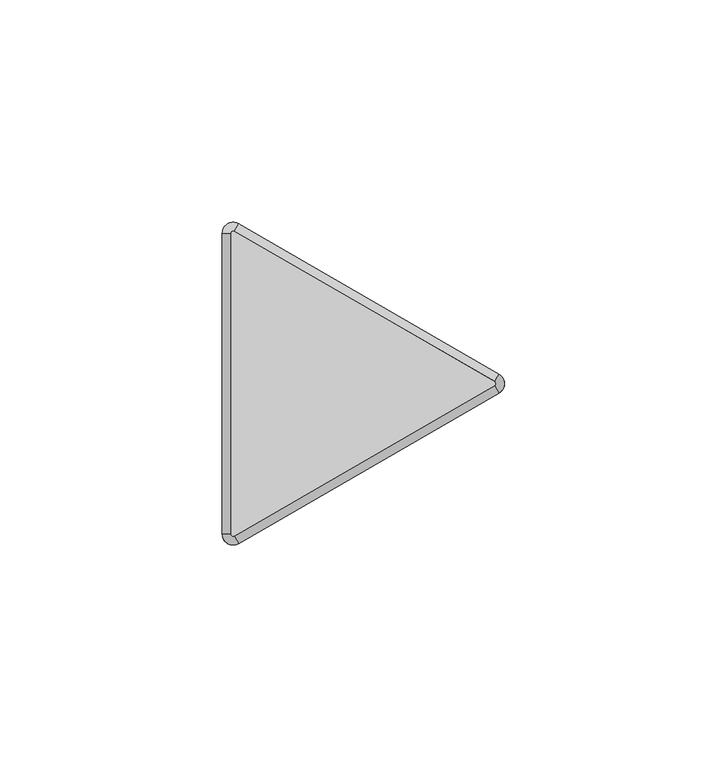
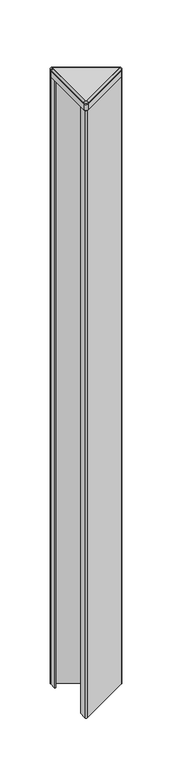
"""IFC4 building model written with IfcOpenShell, lengths in millimetres: furniture geometry, Steelcase - Answer Solution - Panel - 120deg Change-of-Height Trim - Thin : Y Corner - 30H for 66H App."""

import ifcopenshell
import ifcopenshell.guid

model = None  # the IFC model being written
_history = None  # IfcOwnerHistory: only IFC2X3 demands one
_inside = {}  # id of a spatial element -> (the spatial element, [elements in it])
_under = {}  # id of a project, library or spatial element -> (it, [spatial elements below it])
_declared = {}  # id of a project -> (the project, [libraries it declares])
_typed = {}  # id of a type object -> (the type object, [elements of that type])
_made_of = {}  # id of a material, layer set ... -> (it, [elements and type objects made of it])


def new_model(schema):
    """Start an empty IFC model of exactly this schema.

    Asked for "IFC4X3", IfcOpenShell would pick the latest addendum, in which some entities
    have other attributes; the version numbers below select the first issue.
    IFC2X3 requires an IfcOwnerHistory on every rooted entity: one is made here for all.
    """
    global model, _history
    if schema == "IFC4X3":
        model = ifcopenshell.file(schema_version=(4, 3, 0, 0))
    else:
        model = ifcopenshell.file(schema=schema)
    _inside.clear()
    _under.clear()
    _declared.clear()
    _typed.clear()
    _made_of.clear()
    _history = None
    if model.schema == "IFC2X3":
        org = make("IfcOrganization", Name="unknown")
        user = make(
            "IfcPersonAndOrganization",
            ThePerson=make("IfcPerson", FamilyName="unknown"),
            TheOrganization=org,
        )
        app = make(
            "IfcApplication",
            ApplicationDeveloper=org,
            Version="unknown",
            ApplicationFullName="unknown",
            ApplicationIdentifier="unknown",
        )
        _history = make(
            "IfcOwnerHistory",
            OwningUser=user,
            OwningApplication=app,
            ChangeAction="ADDED",
            CreationDate=0,
        )
    return model


def make(cls, **values):
    """One entity of the class cls with the attributes given. An attribute that is None is left unset."""
    return model.create_entity(
        cls, **{name: value for name, value in values.items() if value is not None}
    )


def rooted(cls, **values):
    """An entity with a GlobalId (a new one), such as an element, a storey or a relation."""
    return make(cls, GlobalId=ifcopenshell.guid.new(), OwnerHistory=_history, **values)


def si_unit(unit_type, name, prefix=None):
    """IfcSIUnit, for example si_unit("LENGTHUNIT", "METRE", prefix="MILLI")."""
    return make("IfcSIUnit", UnitType=unit_type, Prefix=prefix, Name=name)


def assignment(units):
    """IfcUnitAssignment: the units of a project."""
    return None if units is None else make("IfcUnitAssignment", Units=units)


def point(xyz):
    """IfcCartesianPoint."""
    return None if xyz is None else make("IfcCartesianPoint", Coordinates=xyz)


def direction(xyz):
    """IfcDirection."""
    return None if xyz is None else make("IfcDirection", DirectionRatios=xyz)


def frame(location, z_axis=None, x_axis=None):
    """IfcAxis2Placement3D, a coordinate frame: its origin and axes. An axis left out is left unset."""
    return make(
        "IfcAxis2Placement3D",
        Location=point(location),
        Axis=direction(z_axis),
        RefDirection=direction(x_axis),
    )


def frame_2d(location, x_axis=None):
    """IfcAxis2Placement2D, a coordinate frame in the plane: its origin and x axis."""
    return make(
        "IfcAxis2Placement2D", Location=point(location), RefDirection=direction(x_axis)
    )


def origin():
    """The frame at (0, 0, 0) with its axes left unset."""
    return frame((0.0, 0.0, 0.0))


def place(relative_to, where):
    """IfcLocalPlacement: puts the frame where relative to a parent placement (None: the world)."""
    return make(
        "IfcLocalPlacement", PlacementRelTo=relative_to, RelativePlacement=where
    )


def context(
    kind, dimensions, precision=None, world=None, true_north=None, identifier=None
):
    """IfcGeometricRepresentationContext, for example the 3D "Model" context."""
    return make(
        "IfcGeometricRepresentationContext",
        ContextIdentifier=identifier,
        ContextType=kind,
        CoordinateSpaceDimension=dimensions,
        Precision=precision,
        WorldCoordinateSystem=world,
        TrueNorth=true_north,
    )


def project(units=None, contexts=None):
    """IfcProject with its units and contexts."""
    return rooted(
        "IfcProject",
        Name="project",
        RepresentationContexts=contexts,
        UnitsInContext=assignment(units),
    )


def spatial(cls, under=None, at=None, **own):
    """A site, building, storey or space (cls), placed at a placement, below another one or the project."""
    s = rooted(cls, ObjectPlacement=at, **own)
    if under is not None:
        _under.setdefault(under.id(), (under, []))[1].append(s)
    return s


def polyline(points):
    """IfcPolyline through the points."""
    return make("IfcPolyline", Points=[point(p) for p in points])


def circle_curve(where, radius):
    """IfcCircle in the frame where."""
    return make("IfcCircle", Position=where, Radius=radius)


def ellipse_curve(where, semi_axis1, semi_axis2):
    """IfcEllipse in the frame where."""
    return make(
        "IfcEllipse", Position=where, SemiAxis1=semi_axis1, SemiAxis2=semi_axis2
    )


def trimmed(basis, trim1, trim2, sense, master):
    """IfcTrimmedCurve: the piece of a basis curve between two trims."""
    return make(
        "IfcTrimmedCurve",
        BasisCurve=basis,
        Trim1=trim1,
        Trim2=trim2,
        SenseAgreement=sense,
        MasterRepresentation=master,
    )


def segment(curve, same_sense, transition):
    """IfcCompositeCurveSegment."""
    return make(
        "IfcCompositeCurveSegment",
        Transition=transition,
        SameSense=same_sense,
        ParentCurve=curve,
    )


def composite_curve(segments, self_intersect=None):
    """IfcCompositeCurve: segments joined end to end."""
    return make("IfcCompositeCurve", Segments=segments, SelfIntersect=self_intersect)


def outline(outer, holes=None, kind="AREA"):
    """IfcArbitraryClosedProfileDef: a profile drawn as a closed curve; with holes, ...WithVoids."""
    if holes is None:
        return make("IfcArbitraryClosedProfileDef", ProfileType=kind, OuterCurve=outer)
    return make(
        "IfcArbitraryProfileDefWithVoids",
        ProfileType=kind,
        OuterCurve=outer,
        InnerCurves=holes,
    )


def extrude(swept, where, along, depth):
    """IfcExtrudedAreaSolid: the profile swept, set in the frame where, extruded along a direction by depth."""
    return make(
        "IfcExtrudedAreaSolid",
        SweptArea=swept,
        Position=where,
        ExtrudedDirection=direction(along),
        Depth=depth,
    )


def shape(context_of_items, identifier, shape_type, items):
    """IfcShapeRepresentation: the items that make up one representation, for example the "Body"."""
    return make(
        "IfcShapeRepresentation",
        ContextOfItems=context_of_items,
        RepresentationIdentifier=identifier,
        RepresentationType=shape_type,
        Items=items,
    )


def source(mapping_origin, context_of_items, identifier, shape_type, items):
    """IfcRepresentationMap: a shape defined once, which mapped items show again and again."""
    return make(
        "IfcRepresentationMap",
        MappingOrigin=mapping_origin,
        MappedRepresentation=shape(context_of_items, identifier, shape_type, items),
    )


def transform(
    local_origin,
    x_axis=None,
    y_axis=None,
    z_axis=None,
    scale=None,
    scale2=None,
    scale3=None,
    uniform=True,
):
    """IfcCartesianTransformationOperator3D, or its non-uniform kind. x_axis, y_axis, z_axis: its Axis1, 2, 3."""
    if uniform:
        return make(
            "IfcCartesianTransformationOperator3D",
            Axis1=direction(x_axis),
            Axis2=direction(y_axis),
            LocalOrigin=point(local_origin),
            Scale=scale,
            Axis3=direction(z_axis),
        )
    return make(
        "IfcCartesianTransformationOperator3DnonUniform",
        Axis1=direction(x_axis),
        Axis2=direction(y_axis),
        LocalOrigin=point(local_origin),
        Scale=scale,
        Axis3=direction(z_axis),
        Scale2=scale2,
        Scale3=scale3,
    )


def mapped(mapping_source, mapping_target):
    """IfcMappedItem: shows the shape of a source again, moved by a transform."""
    return make(
        "IfcMappedItem", MappingSource=mapping_source, MappingTarget=mapping_target
    )


def made_of(thing, what):
    """Note that an element or type object is made of a material, layer set ...; save() writes the relation."""
    if what is not None:
        _made_of.setdefault(what.id(), (what, []))[1].append(thing)
    return thing


def element(
    cls,
    number,
    at=None,
    inside=None,
    cuts=None,
    type_object=None,
    material=None,
    context=None,
    identifier="Body",
    shape_type=None,
    held_by="IfcProductDefinitionShape",
    body=None,
    shapes=None,
    **own,
):
    """One element of the class cls, such as IfcWall. Its Tag is "e" and its number.

    at: its placement. inside: the storey or other place that contains it. cuts: it is an
    opening in that element (IfcRelVoidsElement). A single representation is given by context,
    identifier, shape_type and body (its items); several are given by shapes. held_by: the class
    of the entity that holds the representations. save() writes the other relations.
    """
    e = rooted(cls, Tag="e%d" % number, ObjectPlacement=at, **own)
    if body is not None:
        shapes = [shape(context, identifier, shape_type, body)]
    if shapes is not None:
        e.Representation = make(held_by, Representations=shapes)
    if inside is not None:
        _inside.setdefault(inside.id(), (inside, []))[1].append(e)
    if cuts is not None:
        rooted(
            "IfcRelVoidsElement", RelatingBuildingElement=cuts, RelatedOpeningElement=e
        )
    if type_object is not None:
        _typed.setdefault(type_object.id(), (type_object, []))[1].append(e)
    return made_of(e, material)


def aggregate(whole, parts):
    """IfcRelAggregates: a whole, such as a stair, and the parts it consists of."""
    return rooted("IfcRelAggregates", RelatingObject=whole, RelatedObjects=parts)


def save(model, path):
    """Write the relations noted so far, then the file.

    IfcRelAggregates (storeys below a building ...), IfcRelContainedInSpatialStructure (elements
    in a storey), IfcRelDefinesByType, IfcRelAssociatesMaterial and IfcRelDeclares: one each for
    every whole, place, type object, material and project.
    """
    for whole, parts in _under.values():
        aggregate(whole, parts)
    for where, things in _inside.values():
        rooted(
            "IfcRelContainedInSpatialStructure",
            RelatedElements=things,
            RelatingStructure=where,
        )
    for kind, things in _typed.values():
        rooted("IfcRelDefinesByType", RelatedObjects=things, RelatingType=kind)
    for what, things in _made_of.values():
        rooted("IfcRelAssociatesMaterial", RelatedObjects=things, RelatingMaterial=what)
    for by, libraries in _declared.values():
        rooted("IfcRelDeclares", RelatingContext=by, RelatedDefinitions=libraries)
    model.write(path)


def plane_surface(at):
    """IfcPlane: the flat surface through the origin of the frame at, square to its z axis."""
    return make("IfcPlane", Position=at)


def cylinder_surface(at, radius):
    """IfcCylindricalSurface: all points at the distance radius from the z axis of the frame at."""
    return make("IfcCylindricalSurface", Position=at, Radius=radius)


def revolved_surface(curve, axis_point, axis_direction):
    """IfcSurfaceOfRevolution: the curve turned about the line through axis_point along axis_direction."""
    return make(
        "IfcSurfaceOfRevolution",
        SweptCurve=make("IfcArbitraryOpenProfileDef", ProfileType="CURVE", Curve=curve),
        AxisPosition=make("IfcAxis1Placement", Location=point(axis_point), Axis=direction(axis_direction)),
    )


def advanced_brep(points, edges, surfaces, faces):
    """IfcAdvancedBrep: a solid bounded by faces that lie on surfaces and meet in shared edges.

    An edge is (start, end): straight between two places in points (the first is 0);
    or (start, end, curve); or (start, end, curve, False) where it runs against its curve.
    A face is (place in surfaces, loops), or (place, loops, False) where it looks against
    its surface's normal. A loop lists edges by number (the first is 1), with a minus sign
    where the edge is run from its end to its start. The first loop is the outer one.
    """
    corners = [point(p) for p in points]
    vertices = [make("IfcVertexPoint", VertexGeometry=c) for c in corners]
    made = []
    for start, end, *more in edges:
        made.append(
            make(
                "IfcEdgeCurve",
                EdgeStart=vertices[start],
                EdgeEnd=vertices[end],
                EdgeGeometry=more[0] if more else make("IfcPolyline", Points=[corners[start], corners[end]]),
                SameSense=more[1] if len(more) > 1 else True,
            )
        )
    hull = []
    for where, loops, *sense in faces:
        bounds = []
        for j, loop in enumerate(loops):
            ring = [make("IfcOrientedEdge", EdgeElement=made[abs(k) - 1], Orientation=k > 0) for k in loop]
            bounds.append(
                make(
                    "IfcFaceOuterBound" if j == 0 else "IfcFaceBound",
                    Bound=make("IfcEdgeLoop", EdgeList=ring),
                    Orientation=True,
                )
            )
        hull.append(make("IfcAdvancedFace", Bounds=bounds, FaceSurface=surfaces[where], SameSense=sense[0] if sense else True))
    return make("IfcAdvancedBrep", Outer=make("IfcClosedShell", CfsFaces=hull))


def furniture_03449b9e(model_context):
    return source(origin(), model_context, "Body", "SolidModel", [
        advanced_brep(
        [(-10.518645, -37.3335529, 1680.8628978), (-14.2052101, -35.2051135, 1680.8628978), (-14.2052101, -35.2051135, 1679.9164663), (-10.518645, -37.3335529, 1679.9164663), (-11.46175, -35.7000471, 1682.75), (-12.319, -35.2051135, 1682.75), (-11.46175, -35.7000471, 1679.9164663), (-12.319, -35.2051135, 1679.9164663), (48.0429908, -3.5229767, 1679.9164663), (48.0429908, -3.5229767, 1680.8628978), (47.0998858, -1.8894709, 1682.75), (47.0998858, -1.8894709, 1679.9164663), (48.0429908, 0.733902, 1680.8628978), (48.0429908, 0.733902, 1679.9164663), (47.0998858, -0.8996038, 1682.75), (47.0998858, -0.8996038, 1679.9164663), (-10.518645, 34.5444782, 1679.9164663), (-14.2052101, 32.4160388, 1679.9164663), (-11.46175, 32.9109723, 1679.9164663), (-12.319, 32.4160388, 1679.9164663), (-10.518645, 34.5444782, 1680.8628978), (-11.46175, 32.9109723, 1682.75), (-14.2052101, 32.4160388, 1680.8628978), (-12.319, 32.4160388, 1682.75)],
        [
            (0, 1, circle_curve(frame((-11.7475, -35.2051135, 1680.8628978), z_axis=(0.0, 0.0, -1.0), x_axis=(-1.0, 0.0, 0.0)), 2.4577101)),
            (1, 2),
            (2, 3, circle_curve(frame((-11.7475, -35.2051135, 1679.9164663), z_axis=(0.0, 0.0, 1.0), x_axis=(-1.0, 0.0, 0.0)), 2.4577101)),
            (3, 0),
            (4, 5, circle_curve(frame((-11.7475, -35.2051135, 1682.75), z_axis=(0.0, 0.0, -1.0), x_axis=(-1.0, 0.0, 0.0)), 0.5715)),
            (5, 1, circle_curve(frame((-12.3181076, -35.2051135, 1680.8628978), z_axis=(0.0, -1.0, 0.0), x_axis=(1.0, 0.0, 0.0)), 1.8871024)),
            (0, 4, circle_curve(frame((-11.4621962, -35.6992743, 1680.8628978), z_axis=(-0.8660254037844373, -0.5000000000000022, 0.0), x_axis=(-0.5000000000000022, 0.8660254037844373, 0.0)), 1.8871024)),
            (6, 7, circle_curve(frame((-11.7475, -35.2051135, 1679.9164663), z_axis=(0.0, 0.0, -1.0), x_axis=(-1.0, 0.0, 0.0)), 0.5715)),
            (7, 5),
            (4, 6),
            (3, 8),
            (8, 9),
            (9, 0),
            (9, 10, circle_curve(frame((47.0994396, -1.8886981, 1680.8628978), z_axis=(-0.8660254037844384, -0.5000000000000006, 0.0), x_axis=(-0.5000000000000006, 0.8660254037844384, 0.0)), 1.8871024)),
            (10, 4),
            (10, 11),
            (11, 6),
            (12, 9, circle_curve(frame((46.8141358, -1.3945374, 1680.8628978), z_axis=(0.0, 0.0, -1.0), x_axis=(0.4999999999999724, -0.8660254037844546, 0.0)), 2.4577101)),
            (8, 13, circle_curve(frame((46.8141358, -1.3945374, 1679.9164663), z_axis=(0.0, 0.0, 1.0), x_axis=(0.4999999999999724, -0.8660254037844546, 0.0)), 2.4577101)),
            (13, 12),
            (14, 10, circle_curve(frame((46.8141358, -1.3945374, 1682.75), z_axis=(0.0, 0.0, -1.0), x_axis=(0.4999999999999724, -0.8660254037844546, 0.0)), 0.5715)),
            (12, 14, circle_curve(frame((47.0994396, -0.9003766, 1680.8628978), z_axis=(0.8660254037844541, -0.49999999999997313, 0.0), x_axis=(-0.49999999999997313, -0.8660254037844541, 0.0)), 1.8871024)),
            (15, 11, circle_curve(frame((46.8141358, -1.3945374, 1679.9164663), z_axis=(0.0, 0.0, -1.0), x_axis=(0.4999999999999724, -0.8660254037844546, 0.0)), 0.5715)),
            (14, 15),
            (16, 13),
            (2, 17),
            (17, 16, circle_curve(frame((-11.7475, 32.4160388, 1679.9164663), z_axis=(0.0, 0.0, -1.0), x_axis=(0.500000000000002, 0.8660254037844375, 0.0)), 2.4577101)),
            (15, 18),
            (18, 19, circle_curve(frame((-11.7475, 32.4160388, 1679.9164663), z_axis=(0.0, 0.0, 1.0), x_axis=(0.500000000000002, 0.8660254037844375, 0.0)), 0.5715)),
            (19, 7),
            (16, 20),
            (20, 12),
            (20, 21, circle_curve(frame((-11.4621962, 32.9101995, 1680.8628978), z_axis=(0.8660254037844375, -0.5000000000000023, 0.0), x_axis=(-0.5000000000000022, -0.8660254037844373, 0.0)), 1.8871024)),
            (21, 14),
            (21, 18),
            (22, 20, circle_curve(frame((-11.7475, 32.4160388, 1680.8628978), z_axis=(0.0, 0.0, -1.0), x_axis=(0.500000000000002, 0.8660254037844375, 0.0)), 2.4577101)),
            (17, 22),
            (23, 21, circle_curve(frame((-11.7475, 32.4160388, 1682.75), z_axis=(0.0, 0.0, -1.0), x_axis=(0.500000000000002, 0.8660254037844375, 0.0)), 0.5715)),
            (22, 23, circle_curve(frame((-12.3181076, 32.4160388, 1680.8628978), z_axis=(0.0, 1.0, 0.0), x_axis=(1.0, 0.0, 0.0)), 1.8871024)),
            (23, 19),
            (1, 22),
            (5, 23),
        ],
        [
            cylinder_surface(frame((-11.7475, -35.2051135, 0.0), z_axis=(0.0, 0.0, 1.0), x_axis=(-1.0, 0.0, 0.0)), 2.4577101),
            revolved_surface(trimmed(ellipse_curve(frame((-12.3181076, -35.2051135, 1680.8628978), z_axis=(0.0, 1.0, 0.0), x_axis=(1.0, 0.0, 0.0)), 1.8871024, 1.8871024), [point((-14.2052101, -35.2051135, 1680.8628978))], [point((-12.319, -35.2051135, 1682.75))], True, "CARTESIAN"), (-11.7475, -35.2051135, 0.0), (0.0, 0.0, 1.0)),
            revolved_surface(polyline([(-12.319, -35.2051135, 1682.75), (-12.319, -35.2051135, 1679.9164663)]), (-11.7475, -35.2051135, 0.0), (0.0, 0.0, 1.0)),
            plane_surface(frame((-10.518645, -37.3335529, 1679.9164663), z_axis=(0.5000000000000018, -0.8660254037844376, 0.0), x_axis=(0.8660254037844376, 0.5000000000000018, 0.0))),
            cylinder_surface(frame((-11.4621962, -35.6992743, 1680.8628978), z_axis=(-0.8660254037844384, -0.5000000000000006, 0.0), x_axis=(-0.5000000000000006, 0.8660254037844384, 0.0)), 1.8871024),
            plane_surface(frame((-11.46175, -35.7000471, 1682.75), z_axis=(-0.4999999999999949, 0.8660254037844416, 0.0), x_axis=(0.8660254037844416, 0.4999999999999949, 0.0))),
            cylinder_surface(frame((46.8141358, -1.3945374, 0.0), z_axis=(0.0, 0.0, 1.0), x_axis=(0.4999999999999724, -0.8660254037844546, 0.0)), 2.4577101),
            revolved_surface(trimmed(ellipse_curve(frame((47.0994396, -1.8886981, 1680.8628978), z_axis=(-0.8660254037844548, -0.499999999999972, 0.0), x_axis=(-0.499999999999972, 0.8660254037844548, 0.0)), 1.8871024, 1.8871024), [point((48.0429908, -3.5229767, 1680.8628978))], [point((47.0998858, -1.8894709, 1682.75))], True, "CARTESIAN"), (46.8141358, -1.3945374, 0.0), (0.0, 0.0, 1.0)),
            revolved_surface(polyline([(47.09988579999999, -1.8894709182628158, 1682.75), (47.09988579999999, -1.8894709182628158, 1679.9164663)]), (46.8141358, -1.3945374, 0.0), (0.0, 0.0, 1.0)),
            plane_surface(frame((47.0998858, -0.8996038, 1679.9164663), z_axis=(0.0, 0.0, -1.0), x_axis=(-0.8660254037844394, 0.4999999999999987, 0.0))),
            plane_surface(frame((48.0429908, 0.733902, 1679.9164663), z_axis=(0.5000000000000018, 0.8660254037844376, 0.0), x_axis=(-0.8660254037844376, 0.5000000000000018, 0.0))),
            cylinder_surface(frame((47.0994396, -0.9003766, 1680.8628978), z_axis=(0.8660254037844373, -0.5000000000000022, 0.0), x_axis=(-0.5000000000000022, -0.8660254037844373, 0.0)), 1.8871024),
            plane_surface(frame((47.0998858, -0.8996038, 1682.75), z_axis=(-0.4999999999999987, -0.8660254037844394, 0.0), x_axis=(-0.8660254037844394, 0.4999999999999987, 0.0))),
            cylinder_surface(frame((-11.7475, 32.4160388, 0.0), z_axis=(0.0, 0.0, 1.0), x_axis=(0.500000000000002, 0.8660254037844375, 0.0)), 2.4577101),
            revolved_surface(trimmed(ellipse_curve(frame((-11.4621962, 32.9101995, 1680.8628978), z_axis=(0.866025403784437, -0.5000000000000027, 0.0), x_axis=(-0.5000000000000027, -0.866025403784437, 0.0)), 1.8871024, 1.8871024), [point((-10.518645, 34.5444782, 1680.8628978))], [point((-11.46175, 32.9109723, 1682.75))], True, "CARTESIAN"), (-11.7475, 32.4160388, 0.0), (0.0, 0.0, 1.0)),
            revolved_surface(polyline([(-11.461749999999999, 32.91097231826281, 1682.75), (-11.461749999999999, 32.91097231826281, 1679.9164663)]), (-11.7475, 32.4160388, 0.0), (0.0, 0.0, 1.0)),
            plane_surface(frame((-14.2052101, 32.4160388, 1679.9164663), z_axis=(-1.0, 0.0, 0.0), x_axis=(0.0, -1.0, 0.0))),
            cylinder_surface(frame((-12.3181076, 32.4160388, 1680.8628978), z_axis=(0.0, 1.0, 0.0), x_axis=(1.0, 0.0, 0.0)), 1.8871024),
            plane_surface(frame((-12.319, 32.4160388, 1682.75), z_axis=(1.0, 0.0, 0.0), x_axis=(0.0, -1.0, 0.0))),
        ],
        [
            (0, [[1, 2, 3, 4]]),
            (1, [[5, 6, -1, 7]]),
            (2, [[8, 9, -5, 10]]),
            (3, [[-4, 11, 12, 13]]),
            (4, [[-7, -13, 14, 15]]),
            (5, [[-10, -15, 16, 17]]),
            (6, [[18, -12, 19, 20]]),
            (7, [[21, -14, -18, 22]]),
            (8, [[23, -16, -21, 24]]),
            (9, [[25, -19, -11, -3, 26, 27], [-8, -17, -23, 28, 29, 30]]),
            (10, [[-20, -25, 31, 32]]),
            (11, [[-22, -32, 33, 34]]),
            (12, [[-24, -34, 35, -28]]),
            (13, [[36, -31, -27, 37]]),
            (14, [[38, -33, -36, 39]]),
            (15, [[-29, -35, -38, 40]]),
            (16, [[-37, -26, -2, 41]]),
            (17, [[-39, -41, -6, 42]]),
            (18, [[-40, -42, -9, -30]]),
        ],
    ),
        extrude(outline(composite_curve([segment(trimmed(circle_curve(frame_2d((47.9522001, -1.3945374)), 1.2978651), [point((48.6011327, -0.2705532))], [point((48.6011327, -2.5185215))], False, "CARTESIAN"), True, "CONTINUOUS"), segment(polyline([(48.6011327, -2.5185215), (-11.6879343, -37.3264306)]), True, "CONTINUOUS"), segment(trimmed(circle_curve(frame_2d((-12.3300896, -36.2141852)), 1.2843104), [point((-11.6879343, -37.3264306))], [point((-13.6144, -36.2141852))], False, "CARTESIAN"), True, "CONTINUOUS"), segment(polyline([(-13.6144, -36.2141852), (-13.6144, -27.3303775), (-12.7, -27.3303775), (-12.7, -36.8548888), (48.7191304, -1.3945374), (-12.7, 34.0658141), (-12.7, 24.5413027), (-13.6144, 24.5413027), (-13.6144, 33.4106259)]), True, "CONTINUOUS"), segment(trimmed(circle_curve(frame_2d((-12.3217269, 33.4106259)), 1.2926731), [point((-13.6144, 33.4106259))], [point((-11.6753904, 34.5301136))], False, "CARTESIAN"), True, "CONTINUOUS"), segment(polyline([(-11.6753904, 34.5301136), (48.6011327, -0.2705532)]), True, "CONTINUOUS")], self_intersect=False)), frame((0.0, 0.0, 920.75), z_axis=(0.0, 0.0, 1.0), x_axis=(1.0, 0.0, 0.0)), (0.0, 0.0, 1.0), 751.84),
        extrude(outline(composite_curve([segment(trimmed(circle_curve(frame_2d((46.8261011, -1.3945374)), 0.5655173), [point((47.1088598, -0.904785))], [point((47.1088598, -1.8842897))], False, "CARTESIAN"), True, "CONTINUOUS"), segment(polyline([(47.1088598, -1.8842897), (-11.4505119, -35.6935587)]), True, "CONTINUOUS"), segment(trimmed(circle_curve(frame_2d((-11.7400079, -35.1921369)), 0.5789921), [point((-11.4505119, -35.6935587))], [point((-12.319, -35.1921369))], False, "CARTESIAN"), True, "CONTINUOUS"), segment(polyline([(-12.319, -35.1921369), (-12.319, 32.3985888)]), True, "CONTINUOUS"), segment(trimmed(circle_curve(frame_2d((-11.7374252, 32.3985888)), 0.5815748), [point((-12.319, 32.3985888))], [point((-11.4466378, 32.9022473))], False, "CARTESIAN"), True, "CONTINUOUS"), segment(polyline([(-11.4466378, 32.9022473), (47.1088598, -0.904785)]), True, "CONTINUOUS")], self_intersect=False)), frame((0.0, 0.0, 1679.9164663), z_axis=(0.0, 0.0, 1.0), x_axis=(1.0, 0.0, 0.0)), (0.0, 0.0, 1.0), 2.8335337),
        extrude(outline(composite_curve([segment(trimmed(circle_curve(frame_2d((46.8140443, -1.3945374)), 2.4577558), [point((48.0429222, 0.7339416))], [point((48.0429222, -3.5230163))], False, "CARTESIAN"), True, "CONTINUOUS"), segment(polyline([(48.0429222, -3.5230163), (-10.518058, -37.333214)]), True, "CONTINUOUS"), segment(trimmed(circle_curve(frame_2d((-11.7471087, -35.2044357)), 2.4581014), [point((-10.518058, -37.333214))], [point((-14.2052101, -35.2044357))], False, "CARTESIAN"), True, "CONTINUOUS"), segment(polyline([(-14.2052101, -35.2044357), (-14.2052101, 32.4160388)]), True, "CONTINUOUS"), segment(trimmed(circle_curve(frame_2d((-11.7475, 32.4160388)), 2.4577101), [point((-14.2052101, 32.4160388))], [point((-10.518645, 34.5444782))], False, "CARTESIAN"), True, "CONTINUOUS"), segment(polyline([(-10.518645, 34.5444782), (48.0429222, 0.7339416)]), True, "CONTINUOUS")], self_intersect=False)), frame((0.0, 0.0, 1672.59), z_axis=(0.0, 0.0, 1.0), x_axis=(1.0, 0.0, 0.0)), (0.0, 0.0, 1.0), 7.3264663),
    ])


if __name__ == "__main__":
    model = new_model("IFC4")
    model_context = context("Model", 3, world=origin())
    ifc_project = project(units=[si_unit("LENGTHUNIT", "METRE", prefix="MILLI")], contexts=[model_context])
    site = spatial("IfcSite", under=ifc_project)
    building = spatial("IfcBuilding", under=site)
    placement = place(None, origin())
    furniture_shape = furniture_03449b9e(model_context)
    element("IfcFurniture", 1, ObjectType="Steelcase - Answer Solution - Panel - 120deg Change-of-Height Trim - Thin : Y Corner - 30H for 66H App", at=placement, inside=building, context=model_context, shape_type="MappedRepresentation", body=[
        mapped(furniture_shape, transform((0.0, 0.0, 0.0), x_axis=(1.0, 0.0, 0.0), y_axis=(0.0, 1.0, 0.0), z_axis=(0.0, 0.0, 1.0))),
    ])
    save(model, "model.ifc")
